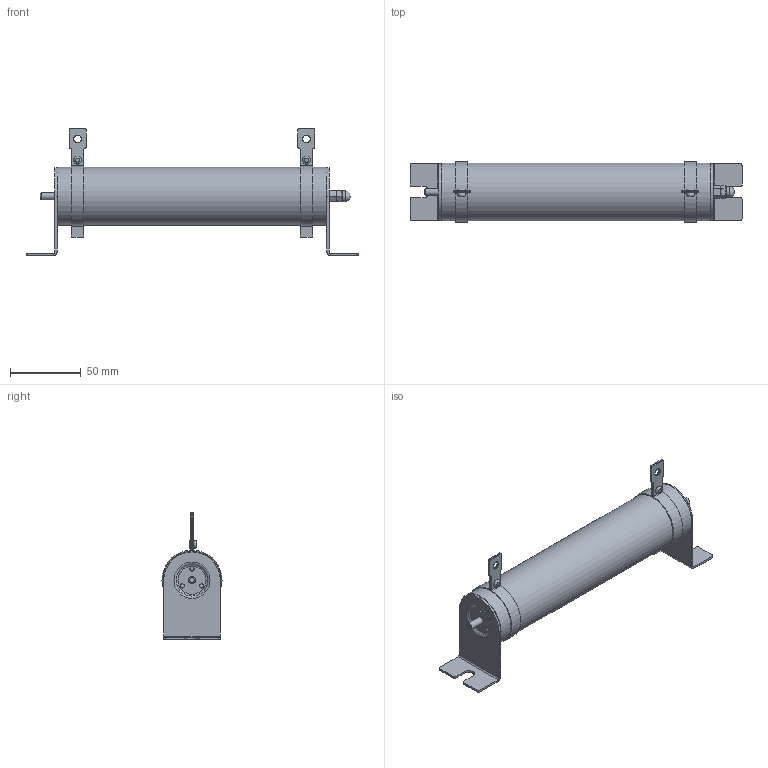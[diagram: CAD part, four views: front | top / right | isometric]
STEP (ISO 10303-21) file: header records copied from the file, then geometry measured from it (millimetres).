
FILE_DESCRIPTION(('STEP AP203'), '1');
FILE_NAME('Ðåçèñòîð òîðìîçíîé _ 250 Âò 400 Îì', '', ('UNSPECIFIED'), ('UNSPECIFIED'), 'C3D Converter', 'C3D Toolkit', '');
FILE_SCHEMA(('CONFIG_CONTROL_DESIGN'));
Length unit declared in the file: millimetre
Products named in the file (16): 250 Вт 400 Ом; РТ 250 Вт 400 Ом; ГОСТ 22032-76; DIN 125 (A); DIN 127 (A); DIN 934; ГОСТ 11860-85; DIN 7337
Assembly tree (19 placements, depth 3):
  250 Вт 400 Ом
    РТ 250 Вт 400 Ом
    РТ 250 Вт 400 Ом  x2
    ГОСТ 22032-76  x2
      (unnamed)
    DIN 125 (A)
      (unnamed)
    DIN 127 (A)
      (unnamed)
    DIN 934
      (unnamed)
    ГОСТ 11860-85
      (unnamed)
    РТ 250 Вт 400 Ом  x2
    DIN 7337  x2
      (unnamed)
Bounding box: 235 x 42.5 x 90 mm (x, y, z)
Volume: 263118 mm3; surface area: 50557.9 mm2
Topology: 15 solids, 15 shells, 285 faces, 622 edges, 379 vertices
Faces by surface type: plane 144, cylinder 106, cone 22, torus 12, sphere 1
Full cylindrical faces by diameter (mm): 2.15 x2, 3 x8, 3.5 x4, 4.134 x2, 5 x4, 5.3 x1, 5.5 x6, 7.5 x1, 10 x1, 25 x2, 41 x1
Entity records: 6854 total; most frequent: CARTESIAN_POINT 1778, DIRECTION 822, ORIENTED_EDGE 662, AXIS2_PLACEMENT_3D 339, EDGE_CURVE 331, EDGE_LOOP 236, VERTEX_POINT 223, ADVANCED_FACE 172
